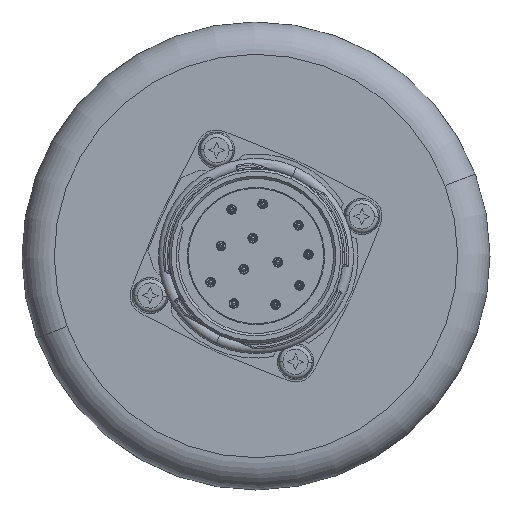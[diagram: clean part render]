
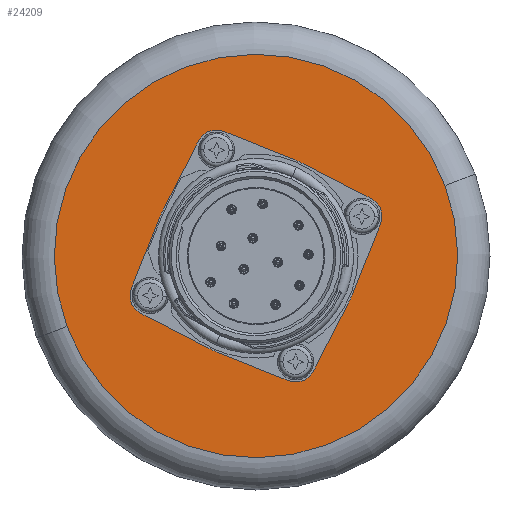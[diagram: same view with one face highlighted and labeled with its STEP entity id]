
A CAD part, left-side view. The second image highlights one B-rep face of the part: STEP entity #24209.
In plain terms, the highlighted planar face has unit normal (-1, 0, 0).
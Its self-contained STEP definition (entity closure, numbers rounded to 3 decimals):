
#86 = FACE_BOUND ( 'NONE', #13938, .T. ) ;
#458 = CARTESIAN_POINT ( 'NONE',  ( -25., -13.115, 4.9 ) ) ;
#614 = CARTESIAN_POINT ( 'NONE',  ( -25., 0., 0. ) ) ;
#1091 = DIRECTION ( 'NONE',  ( 0., 0.937, -0.35 ) ) ;
#2013 = AXIS2_PLACEMENT_3D ( 'NONE', #8346, #22620, #10387 ) ;
#2025 = EDGE_CURVE ( 'NONE', #2178, #23206, #11226, .T. ) ;
#2049 = CIRCLE ( 'NONE', #25734, 1.35 ) ;
#2178 = VERTEX_POINT ( 'NONE', #20150 ) ;
#2179 = CIRCLE ( 'NONE', #7439, 25. ) ;
#2505 = DIRECTION ( 'NONE',  ( 0., 0.937, -0.35 ) ) ;
#2664 = DIRECTION ( 'NONE',  ( 0., -0.937, 0.35 ) ) ;
#2762 = VERTEX_POINT ( 'NONE', #17842 ) ;
#2931 = VERTEX_POINT ( 'NONE', #8824 ) ;
#3139 = VERTEX_POINT ( 'NONE', #9186 ) ;
#3184 = VERTEX_POINT ( 'NONE', #13387 ) ;
#3213 = CIRCLE ( 'NONE', #2013, 10. ) ;
#3411 = CIRCLE ( 'NONE', #12244, 1.35 ) ;
#3909 = CARTESIAN_POINT ( 'NONE',  ( -25., 0., 0. ) ) ;
#3921 = CARTESIAN_POINT ( 'NONE',  ( -25., 13.115, -4.9 ) ) ;
#4318 = AXIS2_PLACEMENT_3D ( 'NONE', #458, #14729, #2505 ) ;
#4431 = CIRCLE ( 'NONE', #9549, 25. ) ;
#4841 = AXIS2_PLACEMENT_3D ( 'NONE', #5701, #19952, #7749 ) ;
#4847 = CARTESIAN_POINT ( 'NONE',  ( -25., -4.9, -13.115 ) ) ;
#5026 = ORIENTED_EDGE ( 'NONE', *, *, #17084, .F. ) ;
#5480 = EDGE_LOOP ( 'NONE', ( #11178, #23860 ) ) ;
#5518 = EDGE_CURVE ( 'NONE', #3184, #21195, #24612, .T. ) ;
#5701 = CARTESIAN_POINT ( 'NONE',  ( -25., 4.9, 13.115 ) ) ;
#5948 = DIRECTION ( 'NONE',  ( 0., 0.937, -0.35 ) ) ;
#5978 = DIRECTION ( 'NONE',  ( 0., 0.937, -0.35 ) ) ;
#5984 = DIRECTION ( 'NONE',  ( 0., 0.937, -0.35 ) ) ;
#6151 = FACE_BOUND ( 'NONE', #10890, .T. ) ;
#6727 = DIRECTION ( 'NONE',  ( -1., 0., 0. ) ) ;
#6810 = VERTEX_POINT ( 'NONE', #15572 ) ;
#6966 = DIRECTION ( 'NONE',  ( 1., 0., 0. ) ) ;
#6999 = CIRCLE ( 'NONE', #4318, 1.35 ) ;
#7016 = CARTESIAN_POINT ( 'NONE',  ( -25., -23.419, 8.749 ) ) ;
#7039 = CARTESIAN_POINT ( 'NONE',  ( -25., 6.164, 12.643 ) ) ;
#7131 = EDGE_CURVE ( 'NONE', #11600, #6810, #6999, .T. ) ;
#7354 = CARTESIAN_POINT ( 'NONE',  ( -25., -4.9, -13.115 ) ) ;
#7439 = AXIS2_PLACEMENT_3D ( 'NONE', #10486, #24755, #12540 ) ;
#7595 = EDGE_CURVE ( 'NONE', #3139, #16576, #2179, .T. ) ;
#7749 = DIRECTION ( 'NONE',  ( 0., 0.937, -0.35 ) ) ;
#7832 = AXIS2_PLACEMENT_3D ( 'NONE', #25512, #13307, #1091 ) ;
#8337 = ORIENTED_EDGE ( 'NONE', *, *, #20319, .F. ) ;
#8346 = CARTESIAN_POINT ( 'NONE',  ( -25., 0., 0. ) ) ;
#8611 = CIRCLE ( 'NONE', #7832, 1.35 ) ;
#8786 = EDGE_LOOP ( 'NONE', ( #13211, #10596 ) ) ;
#8824 = CARTESIAN_POINT ( 'NONE',  ( -25., 11.851, -4.427 ) ) ;
#8906 = AXIS2_PLACEMENT_3D ( 'NONE', #7354, #21618, #9400 ) ;
#9186 = CARTESIAN_POINT ( 'NONE',  ( -25., 23.419, -8.749 ) ) ;
#9400 = DIRECTION ( 'NONE',  ( 0., 0.937, -0.35 ) ) ;
#9549 = AXIS2_PLACEMENT_3D ( 'NONE', #614, #14888, #2664 ) ;
#10279 = FACE_BOUND ( 'NONE', #18888, .T. ) ;
#10387 = DIRECTION ( 'NONE',  ( 0., 0.937, -0.35 ) ) ;
#10486 = CARTESIAN_POINT ( 'NONE',  ( -25., 0., 0. ) ) ;
#10596 = ORIENTED_EDGE ( 'NONE', *, *, #19333, .F. ) ;
#10806 = CIRCLE ( 'NONE', #8906, 1.35 ) ;
#10890 = EDGE_LOOP ( 'NONE', ( #12200, #25999 ) ) ;
#10999 = CARTESIAN_POINT ( 'NONE',  ( -25., 14.38, -5.372 ) ) ;
#11063 = PLANE ( 'NONE',  #20422 ) ;
#11178 = ORIENTED_EDGE ( 'NONE', *, *, #26024, .T. ) ;
#11226 = CIRCLE ( 'NONE', #24380, 1.35 ) ;
#11494 = DIRECTION ( 'NONE',  ( -1., 0., 0. ) ) ;
#11600 = VERTEX_POINT ( 'NONE', #13237 ) ;
#11648 = DIRECTION ( 'NONE',  ( -1., 0., 0. ) ) ;
#12041 = CIRCLE ( 'NONE', #14771, 1.35 ) ;
#12200 = ORIENTED_EDGE ( 'NONE', *, *, #18771, .F. ) ;
#12244 = AXIS2_PLACEMENT_3D ( 'NONE', #23708, #11494, #25756 ) ;
#12540 = DIRECTION ( 'NONE',  ( 0., -0.937, 0.35 ) ) ;
#13104 = CARTESIAN_POINT ( 'NONE',  ( -25., -10.149, -27.166 ) ) ;
#13211 = ORIENTED_EDGE ( 'NONE', *, *, #13949, .F. ) ;
#13237 = CARTESIAN_POINT ( 'NONE',  ( -25., -14.38, 5.372 ) ) ;
#13307 = DIRECTION ( 'NONE',  ( -1., 0., 0. ) ) ;
#13387 = CARTESIAN_POINT ( 'NONE',  ( -25., -9.368, 3.5 ) ) ;
#13938 = EDGE_LOOP ( 'NONE', ( #8337, #14765 ) ) ;
#13949 = EDGE_CURVE ( 'NONE', #23665, #2931, #2049, .T. ) ;
#14729 = DIRECTION ( 'NONE',  ( -1., 0., 0. ) ) ;
#14765 = ORIENTED_EDGE ( 'NONE', *, *, #7131, .F. ) ;
#14771 = AXIS2_PLACEMENT_3D ( 'NONE', #23858, #11648, #25907 ) ;
#14888 = DIRECTION ( 'NONE',  ( -1., 0., 0. ) ) ;
#14892 = ORIENTED_EDGE ( 'NONE', *, *, #24998, .F. ) ;
#15165 = DIRECTION ( 'NONE',  ( 0., -0.937, 0.35 ) ) ;
#15572 = CARTESIAN_POINT ( 'NONE',  ( -25., -11.851, 4.427 ) ) ;
#15727 = FACE_BOUND ( 'NONE', #8786, .T. ) ;
#15819 = CARTESIAN_POINT ( 'NONE',  ( -25., 9.368, -3.5 ) ) ;
#16359 = FACE_BOUND ( 'NONE', #23600, .T. ) ;
#16576 = VERTEX_POINT ( 'NONE', #7016 ) ;
#17084 = EDGE_CURVE ( 'NONE', #23206, #2178, #10806, .T. ) ;
#17842 = CARTESIAN_POINT ( 'NONE',  ( -25., 3.635, 13.588 ) ) ;
#18176 = DIRECTION ( 'NONE',  ( -1., 0., 0. ) ) ;
#18186 = DIRECTION ( 'NONE',  ( -1., 0., 0. ) ) ;
#18771 = EDGE_CURVE ( 'NONE', #26103, #2762, #24179, .T. ) ;
#18888 = EDGE_LOOP ( 'NONE', ( #14892, #25024 ) ) ;
#19323 = AXIS2_PLACEMENT_3D ( 'NONE', #3909, #18176, #5978 ) ;
#19333 = EDGE_CURVE ( 'NONE', #2931, #23665, #12041, .T. ) ;
#19952 = DIRECTION ( 'NONE',  ( -1., 0., 0. ) ) ;
#20150 = CARTESIAN_POINT ( 'NONE',  ( -25., -3.635, -13.588 ) ) ;
#20319 = EDGE_CURVE ( 'NONE', #6810, #11600, #3411, .T. ) ;
#20422 = AXIS2_PLACEMENT_3D ( 'NONE', #13104, #6966, #15165 ) ;
#21132 = FACE_OUTER_BOUND ( 'NONE', #5480, .T. ) ;
#21195 = VERTEX_POINT ( 'NONE', #15819 ) ;
#21559 = CARTESIAN_POINT ( 'NONE',  ( -25., -6.164, -12.643 ) ) ;
#21618 = DIRECTION ( 'NONE',  ( -1., 0., 0. ) ) ;
#22620 = DIRECTION ( 'NONE',  ( -1., 0., 0. ) ) ;
#23206 = VERTEX_POINT ( 'NONE', #21559 ) ;
#23600 = EDGE_LOOP ( 'NONE', ( #24611, #5026 ) ) ;
#23665 = VERTEX_POINT ( 'NONE', #10999 ) ;
#23708 = CARTESIAN_POINT ( 'NONE',  ( -25., -13.115, 4.9 ) ) ;
#23858 = CARTESIAN_POINT ( 'NONE',  ( -25., 13.115, -4.9 ) ) ;
#23860 = ORIENTED_EDGE ( 'NONE', *, *, #7595, .T. ) ;
#24179 = CIRCLE ( 'NONE', #4841, 1.35 ) ;
#24209 = ADVANCED_FACE ( 'NONE', ( #86, #6151, #15727, #16359, #10279, #21132 ), #11063, .F. ) ;
#24380 = AXIS2_PLACEMENT_3D ( 'NONE', #4847, #6727, #5948 ) ;
#24611 = ORIENTED_EDGE ( 'NONE', *, *, #2025, .F. ) ;
#24612 = CIRCLE ( 'NONE', #19323, 10. ) ;
#24755 = DIRECTION ( 'NONE',  ( -1., 0., 0. ) ) ;
#24998 = EDGE_CURVE ( 'NONE', #21195, #3184, #3213, .T. ) ;
#25024 = ORIENTED_EDGE ( 'NONE', *, *, #5518, .F. ) ;
#25512 = CARTESIAN_POINT ( 'NONE',  ( -25., 4.9, 13.115 ) ) ;
#25521 = EDGE_CURVE ( 'NONE', #2762, #26103, #8611, .T. ) ;
#25734 = AXIS2_PLACEMENT_3D ( 'NONE', #3921, #18186, #5984 ) ;
#25756 = DIRECTION ( 'NONE',  ( 0., 0.937, -0.35 ) ) ;
#25907 = DIRECTION ( 'NONE',  ( 0., 0.937, -0.35 ) ) ;
#25999 = ORIENTED_EDGE ( 'NONE', *, *, #25521, .F. ) ;
#26024 = EDGE_CURVE ( 'NONE', #16576, #3139, #4431, .T. ) ;
#26103 = VERTEX_POINT ( 'NONE', #7039 ) ;
